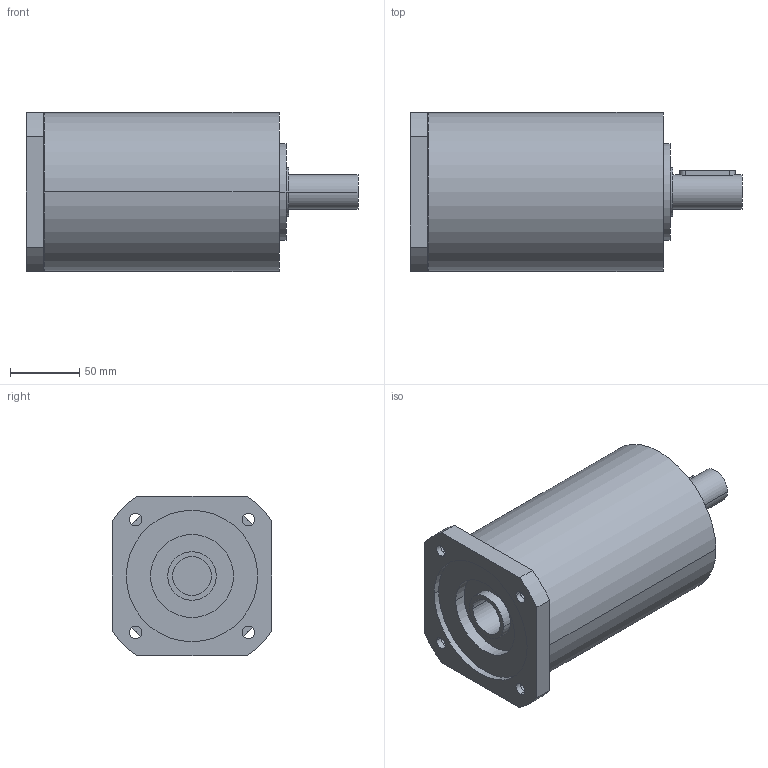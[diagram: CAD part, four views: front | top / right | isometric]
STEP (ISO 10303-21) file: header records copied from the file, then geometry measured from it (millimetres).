
FILE_DESCRIPTION(('CoCreate Modeling STEP Export'),'2;1');
FILE_NAME('GPR125_ig-9-12-16-20-28-35_25_B14_28_P06.stp','2014-08-26T14:11:36',(''),(''),'CoCreate Modeling STEP processor for AP214 (Solid Model)','CoCreate Modeling 16.00C 25-Feb-2009 (C) Parametric Technology GmbH','');
FILE_SCHEMA(('AUTOMOTIVE_DESIGN { 1 0 10303 214 1 1 1 1 }'));
Length unit declared in the file: millimetre
Products named in the file (2): GPR125_ig-9-12-16-20-28-35_25_B14_28_P06
Assembly tree (1 placements, depth 2):
  GPR125_ig-9-12-16-20-28-35_25_B14_28_P06
    GPR125_ig-9-12-16-20-28-35_25_B14_28_P06
Bounding box: 240 x 115 x 115 mm (x, y, z)
Volume: 1881293.8 mm3; surface area: 111482.3 mm2
Topology: 1 solids, 1 shells, 81 faces, 223 edges, 155 vertices
Faces by surface type: cylinder 48, plane 29, cone 4
Entity records: 2226 total; most frequent: ORIENTED_EDGE 442, CARTESIAN_POINT 408, DIRECTION 300, EDGE_CURVE 221, VERTEX_POINT 155, AXIS2_PLACEMENT_3D 115, EDGE_LOOP 102, FACE_OUTER_BOUND 81
